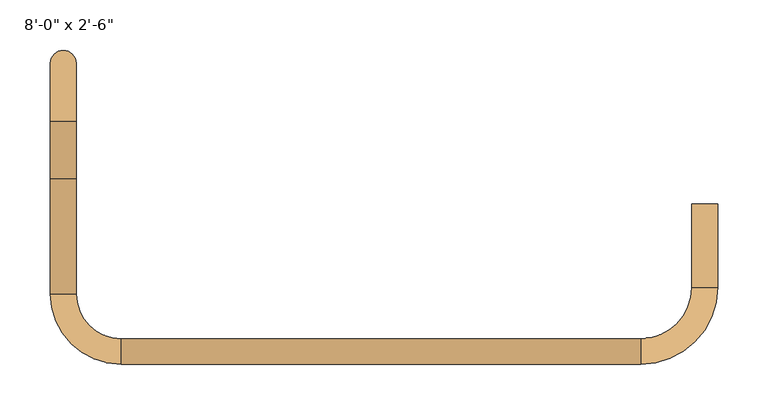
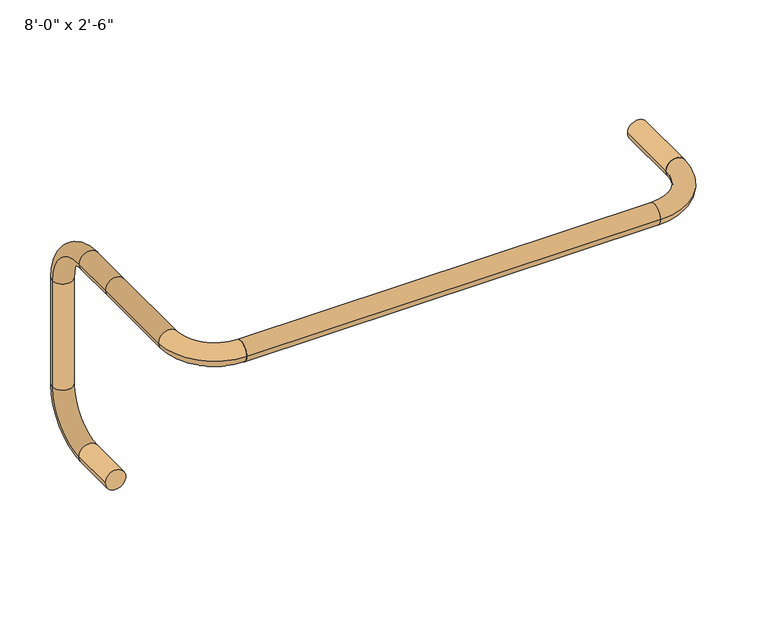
"""IFC4 building model written with IfcOpenShell, lengths in millimetres: door geometry."""

import ifcopenshell
import ifcopenshell.guid

model = None  # the IFC model being written
_history = None  # IfcOwnerHistory: only IFC2X3 demands one
_inside = {}  # id of a spatial element -> (the spatial element, [elements in it])
_under = {}  # id of a project, library or spatial element -> (it, [spatial elements below it])
_declared = {}  # id of a project -> (the project, [libraries it declares])
_typed = {}  # id of a type object -> (the type object, [elements of that type])
_made_of = {}  # id of a material, layer set ... -> (it, [elements and type objects made of it])


def new_model(schema):
    """Start an empty IFC model of exactly this schema.

    Asked for "IFC4X3", IfcOpenShell would pick the latest addendum, in which some entities
    have other attributes; the version numbers below select the first issue.
    IFC2X3 requires an IfcOwnerHistory on every rooted entity: one is made here for all.
    """
    global model, _history
    if schema == "IFC4X3":
        model = ifcopenshell.file(schema_version=(4, 3, 0, 0))
    else:
        model = ifcopenshell.file(schema=schema)
    _inside.clear()
    _under.clear()
    _declared.clear()
    _typed.clear()
    _made_of.clear()
    _history = None
    if model.schema == "IFC2X3":
        org = make("IfcOrganization", Name="unknown")
        user = make(
            "IfcPersonAndOrganization",
            ThePerson=make("IfcPerson", FamilyName="unknown"),
            TheOrganization=org,
        )
        app = make(
            "IfcApplication",
            ApplicationDeveloper=org,
            Version="unknown",
            ApplicationFullName="unknown",
            ApplicationIdentifier="unknown",
        )
        _history = make(
            "IfcOwnerHistory",
            OwningUser=user,
            OwningApplication=app,
            ChangeAction="ADDED",
            CreationDate=0,
        )
    return model


def make(cls, **values):
    """One entity of the class cls with the attributes given. An attribute that is None is left unset."""
    return model.create_entity(
        cls, **{name: value for name, value in values.items() if value is not None}
    )


def rooted(cls, **values):
    """An entity with a GlobalId (a new one), such as an element, a storey or a relation."""
    return make(cls, GlobalId=ifcopenshell.guid.new(), OwnerHistory=_history, **values)


def si_unit(unit_type, name, prefix=None):
    """IfcSIUnit, for example si_unit("LENGTHUNIT", "METRE", prefix="MILLI")."""
    return make("IfcSIUnit", UnitType=unit_type, Prefix=prefix, Name=name)


def assignment(units):
    """IfcUnitAssignment: the units of a project."""
    return None if units is None else make("IfcUnitAssignment", Units=units)


def point(xyz):
    """IfcCartesianPoint."""
    return None if xyz is None else make("IfcCartesianPoint", Coordinates=xyz)


def direction(xyz):
    """IfcDirection."""
    return None if xyz is None else make("IfcDirection", DirectionRatios=xyz)


def frame(location, z_axis=None, x_axis=None):
    """IfcAxis2Placement3D, a coordinate frame: its origin and axes. An axis left out is left unset."""
    return make(
        "IfcAxis2Placement3D",
        Location=point(location),
        Axis=direction(z_axis),
        RefDirection=direction(x_axis),
    )


def frame_2d(location, x_axis=None):
    """IfcAxis2Placement2D, a coordinate frame in the plane: its origin and x axis."""
    return make(
        "IfcAxis2Placement2D", Location=point(location), RefDirection=direction(x_axis)
    )


def origin():
    """The frame at (0, 0, 0) with its axes left unset."""
    return frame((0.0, 0.0, 0.0))


def place(relative_to, where):
    """IfcLocalPlacement: puts the frame where relative to a parent placement (None: the world)."""
    return make(
        "IfcLocalPlacement", PlacementRelTo=relative_to, RelativePlacement=where
    )


def context(
    kind, dimensions, precision=None, world=None, true_north=None, identifier=None
):
    """IfcGeometricRepresentationContext, for example the 3D "Model" context."""
    return make(
        "IfcGeometricRepresentationContext",
        ContextIdentifier=identifier,
        ContextType=kind,
        CoordinateSpaceDimension=dimensions,
        Precision=precision,
        WorldCoordinateSystem=world,
        TrueNorth=true_north,
    )


def project(units=None, contexts=None):
    """IfcProject with its units and contexts."""
    return rooted(
        "IfcProject",
        Name="project",
        RepresentationContexts=contexts,
        UnitsInContext=assignment(units),
    )


def spatial(cls, under=None, at=None, **own):
    """A site, building, storey or space (cls), placed at a placement, below another one or the project."""
    s = rooted(cls, ObjectPlacement=at, **own)
    if under is not None:
        _under.setdefault(under.id(), (under, []))[1].append(s)
    return s


def circle_curve(where, radius):
    """IfcCircle in the frame where."""
    return make("IfcCircle", Position=where, Radius=radius)


def ellipse_curve(where, semi_axis1, semi_axis2):
    """IfcEllipse in the frame where."""
    return make(
        "IfcEllipse", Position=where, SemiAxis1=semi_axis1, SemiAxis2=semi_axis2
    )


def trimmed(basis, trim1, trim2, sense, master):
    """IfcTrimmedCurve: the piece of a basis curve between two trims."""
    return make(
        "IfcTrimmedCurve",
        BasisCurve=basis,
        Trim1=trim1,
        Trim2=trim2,
        SenseAgreement=sense,
        MasterRepresentation=master,
    )


def segment(curve, same_sense, transition):
    """IfcCompositeCurveSegment."""
    return make(
        "IfcCompositeCurveSegment",
        Transition=transition,
        SameSense=same_sense,
        ParentCurve=curve,
    )


def composite_curve(segments, self_intersect=None):
    """IfcCompositeCurve: segments joined end to end."""
    return make("IfcCompositeCurve", Segments=segments, SelfIntersect=self_intersect)


def outline(outer, holes=None, kind="AREA"):
    """IfcArbitraryClosedProfileDef: a profile drawn as a closed curve; with holes, ...WithVoids."""
    if holes is None:
        return make("IfcArbitraryClosedProfileDef", ProfileType=kind, OuterCurve=outer)
    return make(
        "IfcArbitraryProfileDefWithVoids",
        ProfileType=kind,
        OuterCurve=outer,
        InnerCurves=holes,
    )


def extrude(swept, where, along, depth):
    """IfcExtrudedAreaSolid: the profile swept, set in the frame where, extruded along a direction by depth."""
    return make(
        "IfcExtrudedAreaSolid",
        SweptArea=swept,
        Position=where,
        ExtrudedDirection=direction(along),
        Depth=depth,
    )


def shape(context_of_items, identifier, shape_type, items):
    """IfcShapeRepresentation: the items that make up one representation, for example the "Body"."""
    return make(
        "IfcShapeRepresentation",
        ContextOfItems=context_of_items,
        RepresentationIdentifier=identifier,
        RepresentationType=shape_type,
        Items=items,
    )


def source(mapping_origin, context_of_items, identifier, shape_type, items):
    """IfcRepresentationMap: a shape defined once, which mapped items show again and again."""
    return make(
        "IfcRepresentationMap",
        MappingOrigin=mapping_origin,
        MappedRepresentation=shape(context_of_items, identifier, shape_type, items),
    )


def transform(
    local_origin,
    x_axis=None,
    y_axis=None,
    z_axis=None,
    scale=None,
    scale2=None,
    scale3=None,
    uniform=True,
):
    """IfcCartesianTransformationOperator3D, or its non-uniform kind. x_axis, y_axis, z_axis: its Axis1, 2, 3."""
    if uniform:
        return make(
            "IfcCartesianTransformationOperator3D",
            Axis1=direction(x_axis),
            Axis2=direction(y_axis),
            LocalOrigin=point(local_origin),
            Scale=scale,
            Axis3=direction(z_axis),
        )
    return make(
        "IfcCartesianTransformationOperator3DnonUniform",
        Axis1=direction(x_axis),
        Axis2=direction(y_axis),
        LocalOrigin=point(local_origin),
        Scale=scale,
        Axis3=direction(z_axis),
        Scale2=scale2,
        Scale3=scale3,
    )


def mapped(mapping_source, mapping_target):
    """IfcMappedItem: shows the shape of a source again, moved by a transform."""
    return make(
        "IfcMappedItem", MappingSource=mapping_source, MappingTarget=mapping_target
    )


def made_of(thing, what):
    """Note that an element or type object is made of a material, layer set ...; save() writes the relation."""
    if what is not None:
        _made_of.setdefault(what.id(), (what, []))[1].append(thing)
    return thing


def element(
    cls,
    number,
    at=None,
    inside=None,
    cuts=None,
    type_object=None,
    material=None,
    context=None,
    identifier="Body",
    shape_type=None,
    held_by="IfcProductDefinitionShape",
    body=None,
    shapes=None,
    **own,
):
    """One element of the class cls, such as IfcWall. Its Tag is "e" and its number.

    at: its placement. inside: the storey or other place that contains it. cuts: it is an
    opening in that element (IfcRelVoidsElement). A single representation is given by context,
    identifier, shape_type and body (its items); several are given by shapes. held_by: the class
    of the entity that holds the representations. save() writes the other relations.
    """
    e = rooted(cls, Tag="e%d" % number, ObjectPlacement=at, **own)
    if body is not None:
        shapes = [shape(context, identifier, shape_type, body)]
    if shapes is not None:
        e.Representation = make(held_by, Representations=shapes)
    if inside is not None:
        _inside.setdefault(inside.id(), (inside, []))[1].append(e)
    if cuts is not None:
        rooted(
            "IfcRelVoidsElement", RelatingBuildingElement=cuts, RelatedOpeningElement=e
        )
    if type_object is not None:
        _typed.setdefault(type_object.id(), (type_object, []))[1].append(e)
    return made_of(e, material)


def aggregate(whole, parts):
    """IfcRelAggregates: a whole, such as a stair, and the parts it consists of."""
    return rooted("IfcRelAggregates", RelatingObject=whole, RelatedObjects=parts)


def save(model, path):
    """Write the relations noted so far, then the file.

    IfcRelAggregates (storeys below a building ...), IfcRelContainedInSpatialStructure (elements
    in a storey), IfcRelDefinesByType, IfcRelAssociatesMaterial and IfcRelDeclares: one each for
    every whole, place, type object, material and project.
    """
    for whole, parts in _under.values():
        aggregate(whole, parts)
    for where, things in _inside.values():
        rooted(
            "IfcRelContainedInSpatialStructure",
            RelatedElements=things,
            RelatingStructure=where,
        )
    for kind, things in _typed.values():
        rooted("IfcRelDefinesByType", RelatedObjects=things, RelatingType=kind)
    for what, things in _made_of.values():
        rooted("IfcRelAssociatesMaterial", RelatedObjects=things, RelatingMaterial=what)
    for by, libraries in _declared.values():
        rooted("IfcRelDeclares", RelatingContext=by, RelatedDefinitions=libraries)
    model.write(path)


def plane_surface(at):
    """IfcPlane: the flat surface through the origin of the frame at, square to its z axis."""
    return make("IfcPlane", Position=at)


def cylinder_surface(at, radius):
    """IfcCylindricalSurface: all points at the distance radius from the z axis of the frame at."""
    return make("IfcCylindricalSurface", Position=at, Radius=radius)


def revolved_surface(curve, axis_point, axis_direction):
    """IfcSurfaceOfRevolution: the curve turned about the line through axis_point along axis_direction."""
    return make(
        "IfcSurfaceOfRevolution",
        SweptCurve=make("IfcArbitraryOpenProfileDef", ProfileType="CURVE", Curve=curve),
        AxisPosition=make("IfcAxis1Placement", Location=point(axis_point), Axis=direction(axis_direction)),
    )


def advanced_brep(points, edges, surfaces, faces):
    """IfcAdvancedBrep: a solid bounded by faces that lie on surfaces and meet in shared edges.

    An edge is (start, end): straight between two places in points (the first is 0);
    or (start, end, curve); or (start, end, curve, False) where it runs against its curve.
    A face is (place in surfaces, loops), or (place, loops, False) where it looks against
    its surface's normal. A loop lists edges by number (the first is 1), with a minus sign
    where the edge is run from its end to its start. The first loop is the outer one.
    """
    corners = [point(p) for p in points]
    vertices = [make("IfcVertexPoint", VertexGeometry=c) for c in corners]
    made = []
    for start, end, *more in edges:
        made.append(
            make(
                "IfcEdgeCurve",
                EdgeStart=vertices[start],
                EdgeEnd=vertices[end],
                EdgeGeometry=more[0] if more else make("IfcPolyline", Points=[corners[start], corners[end]]),
                SameSense=more[1] if len(more) > 1 else True,
            )
        )
    hull = []
    for where, loops, *sense in faces:
        bounds = []
        for j, loop in enumerate(loops):
            ring = [make("IfcOrientedEdge", EdgeElement=made[abs(k) - 1], Orientation=k > 0) for k in loop]
            bounds.append(
                make(
                    "IfcFaceOuterBound" if j == 0 else "IfcFaceBound",
                    Bound=make("IfcEdgeLoop", EdgeList=ring),
                    Orientation=True,
                )
            )
        hull.append(make("IfcAdvancedFace", Bounds=bounds, FaceSurface=surfaces[where], SameSense=sense[0] if sense else True))
    return make("IfcAdvancedBrep", Outer=make("IfcClosedShell", CfsFaces=hull))


def door_1882726e(model_context):
    return source(origin(), model_context, "Body", "SolidModel", [
        extrude(outline(composite_curve([segment(trimmed(circle_curve(frame_2d((1016.0, 317.5)), 12.7), [point((1016.0, 330.2))], [point((1016.0, 304.8))], False, "CARTESIAN"), True, "CONTINUOUS"), segment(trimmed(circle_curve(frame_2d((1016.0, 317.5)), 12.7), [point((1016.0, 304.8))], [point((1016.0, 330.2))], False, "CARTESIAN"), True, "CONTINUOUS")], self_intersect=False)), frame((0.0, -57.15, 0.0), z_axis=(0.0, 1.0, 0.0), x_axis=(0.0, 0.0, 1.0)), (0.0, 0.0, 1.0), 82.55),
        extrude(outline(composite_curve([segment(trimmed(circle_curve(frame_2d((-120.65, 1016.0)), 12.7), [point((-133.35, 1016.0))], [point((-107.95, 1016.0))], False, "CARTESIAN"), True, "CONTINUOUS"), segment(trimmed(circle_curve(frame_2d((-120.65, 1016.0)), 12.7), [point((-107.95, 1016.0))], [point((-133.35, 1016.0))], False, "CARTESIAN"), True, "CONTINUOUS")], self_intersect=False)), frame((-260.35, 0.0, 0.0), z_axis=(1.0, 0.0, 0.0), x_axis=(0.0, 1.0, 0.0)), (0.0, 0.0, 1.0), 514.35),
        advanced_brep(
        [(254.0, -107.95, 1016.0), (254.0, -133.35, 1016.0), (304.8, -57.15, 1016.0), (330.2, -57.15, 1016.0)],
        [
            (0, 1, circle_curve(frame((254.0, -120.65, 1016.0), z_axis=(-1.0, 0.0, 0.0), x_axis=(0.0, -1.0, 0.0)), 12.7)),
            (1, 0, circle_curve(frame((254.0, -120.65, 1016.0), z_axis=(-1.0, 0.0, 0.0), x_axis=(0.0, -1.0, 0.0)), 12.7)),
            (2, 3, circle_curve(frame((317.5, -57.15, 1016.0), z_axis=(0.0, 1.0, 0.0), x_axis=(1.0, 0.0, 0.0)), 12.7)),
            (3, 2, circle_curve(frame((317.5, -57.15, 1016.0), z_axis=(0.0, 1.0, 0.0), x_axis=(1.0, 0.0, 0.0)), 12.7)),
            (2, 0, circle_curve(frame((254.0, -57.15, 1016.0), z_axis=(0.0, 0.0, -1.0), x_axis=(0.0, -1.0, 0.0)), 50.8)),
            (1, 3, circle_curve(frame((254.0, -57.15, 1016.0), z_axis=(0.0, 0.0, 1.0), x_axis=(0.0, -1.0, 0.0)), 76.2)),
        ],
        [
            plane_surface(frame((254.0, -120.65, 1016.0), z_axis=(-1.0, 0.0, 0.0), x_axis=(0.0, 0.0, 1.0))),
            plane_surface(frame((317.5, -57.15, 1016.0), z_axis=(0.0, 1.0, 0.0), x_axis=(0.0, 0.0, 1.0))),
            revolved_surface(trimmed(ellipse_curve(frame((254.0, -120.65, 1016.0), z_axis=(1.0, 0.0, 0.0), x_axis=(0.0, -1.0, 0.0)), 12.7, 12.7), [point((254.0, -107.95, 1016.0))], [point((254.0, -133.35, 1016.0))], True, "CARTESIAN"), (254.0, -57.15, 1016.0), (0.0, 0.0, -1.0)),
            revolved_surface(trimmed(ellipse_curve(frame((254.0, -120.65, 1016.0), z_axis=(1.0, 0.0, 0.0), x_axis=(0.0, -1.0, 0.0)), 12.7, 12.7), [point((254.0, -133.35, 1016.0))], [point((254.0, -107.95, 1016.0))], True, "CARTESIAN"), (254.0, -57.15, 1016.0), (0.0, 0.0, -1.0)),
        ],
        [
            (0, [[1, 2]]),
            (1, [[3, 4]]),
            (2, [[-3, 5, -2, 6]]),
            (3, [[-4, -6, -1, -5]]),
        ],
    ),
        advanced_brep(
        [(-304.8, 50.8, 762.0), (-330.2, 50.8, 762.0), (-330.2, 107.95, 762.0), (-304.8, 107.95, 762.0), (-330.2, 165.1, 819.15), (-304.8, 165.1, 819.15), (-330.2, 165.1, 958.85), (-304.8, 165.1, 958.85), (-330.2, 107.95, 1016.0), (-304.8, 107.95, 1016.0), (-330.2, 50.8, 1016.0), (-304.8, 50.8, 1016.0), (-330.2, -63.5, 1016.0), (-304.8, -63.5, 1016.0), (-260.35, -107.95, 1016.0), (-260.35, -133.35, 1016.0)],
        [
            (0, 1, circle_curve(frame((-317.5, 50.8, 762.0), z_axis=(0.0, -1.0, 0.0), x_axis=(-1.0, 0.0, 0.0)), 12.7)),
            (1, 0, circle_curve(frame((-317.5, 50.8, 762.0), z_axis=(0.0, -1.0, 0.0), x_axis=(-1.0, 0.0, 0.0)), 12.7)),
            (1, 2),
            (2, 3, circle_curve(frame((-317.5, 107.95, 762.0), z_axis=(0.0, -1.0, 0.0), x_axis=(-1.0, 0.0, 0.0)), 12.7)),
            (3, 0),
            (3, 2, circle_curve(frame((-317.5, 107.95, 762.0), z_axis=(0.0, -1.0, 0.0), x_axis=(-1.0, 0.0, 0.0)), 12.7)),
            (4, 5, circle_curve(frame((-317.5, 165.1, 819.15), z_axis=(0.0, 0.0, -1.0), x_axis=(-1.0, 0.0, 0.0)), 12.7)),
            (5, 3, circle_curve(frame((-304.8, 107.95, 819.15), z_axis=(-1.0, 0.0, 0.0), x_axis=(0.0, 0.0, -1.0)), 57.15)),
            (2, 4, circle_curve(frame((-330.2, 107.95, 819.15), z_axis=(1.0, 0.0, 0.0), x_axis=(0.0, 0.0, -1.0)), 57.15)),
            (5, 4, circle_curve(frame((-317.5, 165.1, 819.15), z_axis=(0.0, 0.0, -1.0), x_axis=(-1.0, 0.0, 0.0)), 12.7)),
            (4, 6),
            (6, 7, circle_curve(frame((-317.5, 165.1, 958.85), z_axis=(0.0, 0.0, -1.0), x_axis=(-1.0, 0.0, 0.0)), 12.7)),
            (7, 5),
            (7, 6, circle_curve(frame((-317.5, 165.1, 958.85), z_axis=(0.0, 0.0, -1.0), x_axis=(-1.0, 0.0, 0.0)), 12.7)),
            (8, 9, circle_curve(frame((-317.5, 107.95, 1016.0), z_axis=(0.0, 1.0, 0.0), x_axis=(-1.0, 0.0, 0.0)), 12.7)),
            (9, 7, circle_curve(frame((-304.8, 107.95, 958.85), z_axis=(-1.0, 0.0, 0.0), x_axis=(0.0, 1.0, 0.0)), 57.15)),
            (6, 8, circle_curve(frame((-330.2, 107.95, 958.85), z_axis=(1.0, 0.0, 0.0), x_axis=(0.0, 1.0, 0.0)), 57.15)),
            (9, 8, circle_curve(frame((-317.5, 107.95, 1016.0), z_axis=(0.0, 1.0, 0.0), x_axis=(-1.0, 0.0, 0.0)), 12.7)),
            (8, 10),
            (10, 11, circle_curve(frame((-317.5, 50.8, 1016.0), z_axis=(0.0, 1.0, 0.0), x_axis=(-1.0, 0.0, 0.0)), 12.7)),
            (11, 9),
            (11, 10, circle_curve(frame((-317.5, 50.8, 1016.0), z_axis=(0.0, 1.0, 0.0), x_axis=(-1.0, 0.0, 0.0)), 12.7)),
            (10, 12),
            (12, 13, circle_curve(frame((-317.5, -63.5, 1016.0), z_axis=(0.0, 1.0, 0.0), x_axis=(-1.0, 0.0, 0.0)), 12.7)),
            (13, 11),
            (13, 12, circle_curve(frame((-317.5, -63.5, 1016.0), z_axis=(0.0, 1.0, 0.0), x_axis=(-1.0, 0.0, 0.0)), 12.7)),
            (14, 15, circle_curve(frame((-260.35, -120.65, 1016.0), z_axis=(1.0, 0.0, 0.0), x_axis=(0.0, -1.0, 0.0)), 12.7)),
            (15, 14, circle_curve(frame((-260.35, -120.65, 1016.0), z_axis=(1.0, 0.0, 0.0), x_axis=(0.0, -1.0, 0.0)), 12.7)),
            (14, 13, circle_curve(frame((-260.35, -63.5, 1016.0), z_axis=(0.0, 0.0, -1.0), x_axis=(-1.0, 0.0, 0.0)), 44.45)),
            (12, 15, circle_curve(frame((-260.35, -63.5, 1016.0), z_axis=(0.0, 0.0, 1.0), x_axis=(-1.0, 0.0, 0.0)), 69.85)),
        ],
        [
            plane_surface(frame((-304.8, 50.8, 762.0), z_axis=(0.0, -1.0, 0.0), x_axis=(0.0, 0.0, 1.0))),
            cylinder_surface(frame((-317.5, 50.8, 762.0), z_axis=(0.0, -1.0, 0.0), x_axis=(-1.0, 0.0, 0.0)), 12.7),
            revolved_surface(trimmed(ellipse_curve(frame((-317.5, 107.95, 762.0), z_axis=(0.0, 1.0, 0.0), x_axis=(-1.0, 0.0, 0.0)), 12.7, 12.7), [point((-304.8, 107.95, 762.0))], [point((-330.2, 107.95, 762.0))], True, "CARTESIAN"), (-317.5, 107.95, 819.15), (-1.0, 0.0, 0.0)),
            revolved_surface(trimmed(ellipse_curve(frame((-317.5, 107.95, 762.0), z_axis=(0.0, 1.0, 0.0), x_axis=(-1.0, 0.0, 0.0)), 12.7, 12.7), [point((-330.2, 107.95, 762.0))], [point((-304.8, 107.95, 762.0))], True, "CARTESIAN"), (-317.5, 107.95, 819.15), (-1.0, 0.0, 0.0)),
            cylinder_surface(frame((-317.5, 165.1, 819.15), z_axis=(0.0, 0.0, -1.0), x_axis=(-1.0, 0.0, 0.0)), 12.7),
            revolved_surface(trimmed(ellipse_curve(frame((-317.5, 165.1, 958.85), z_axis=(0.0, 0.0, 1.0), x_axis=(-1.0, 0.0, 0.0)), 12.7, 12.7), [point((-304.8, 165.1, 958.85))], [point((-330.2, 165.1, 958.85))], True, "CARTESIAN"), (-317.5, 107.95, 958.85), (-1.0, 0.0, 0.0)),
            revolved_surface(trimmed(ellipse_curve(frame((-317.5, 165.1, 958.85), z_axis=(0.0, 0.0, 1.0), x_axis=(-1.0, 0.0, 0.0)), 12.7, 12.7), [point((-330.2, 165.1, 958.85))], [point((-304.8, 165.1, 958.85))], True, "CARTESIAN"), (-317.5, 107.95, 958.85), (-1.0, 0.0, 0.0)),
            cylinder_surface(frame((-317.5, 107.95, 1016.0), z_axis=(0.0, 1.0, 0.0), x_axis=(-1.0, 0.0, 0.0)), 12.7),
            cylinder_surface(frame((-317.5, 50.8, 1016.0), z_axis=(0.0, 1.0, 0.0), x_axis=(-1.0, 0.0, 0.0)), 12.7),
            plane_surface(frame((-260.35, -63.5, 1016.0), z_axis=(1.0, 0.0, 0.0), x_axis=(0.0, -1.0, 0.0))),
            revolved_surface(trimmed(ellipse_curve(frame((-317.5, -63.5, 1016.0), z_axis=(0.0, -1.0, 0.0), x_axis=(-1.0, 0.0, 0.0)), 12.7, 12.7), [point((-304.8, -63.5, 1016.0))], [point((-330.2, -63.5, 1016.0))], True, "CARTESIAN"), (-260.35, -63.5, 1016.0), (0.0, 0.0, -1.0)),
            revolved_surface(trimmed(ellipse_curve(frame((-317.5, -63.5, 1016.0), z_axis=(0.0, -1.0, 0.0), x_axis=(-1.0, 0.0, 0.0)), 12.7, 12.7), [point((-330.2, -63.5, 1016.0))], [point((-304.8, -63.5, 1016.0))], True, "CARTESIAN"), (-260.35, -63.5, 1016.0), (0.0, 0.0, -1.0)),
        ],
        [
            (0, [[1, 2]]),
            (1, [[3, 4, 5, -2]]),
            (1, [[-5, 6, -3, -1]]),
            (2, [[7, 8, -4, 9]]),
            (3, [[10, -9, -6, -8]]),
            (4, [[11, 12, 13, -7]]),
            (4, [[-13, 14, -11, -10]]),
            (5, [[15, 16, -12, 17]]),
            (6, [[18, -17, -14, -16]]),
            (7, [[19, 20, 21, -15]]),
            (7, [[-21, 22, -19, -18]]),
            (8, [[23, 24, 25, -20]]),
            (8, [[-25, 26, -23, -22]]),
            (9, [[27, 28]]),
            (10, [[-27, 29, -24, 30]]),
            (11, [[-28, -30, -26, -29]]),
        ],
    ),
    ])


if __name__ == "__main__":
    model = new_model("IFC4")
    model_context = context("Model", 3, world=origin())
    ifc_project = project(units=[si_unit("LENGTHUNIT", "METRE", prefix="MILLI")], contexts=[model_context])
    site = spatial("IfcSite", under=ifc_project)
    building = spatial("IfcBuilding", under=site)
    placement = place(None, origin())
    door_shape = door_1882726e(model_context)
    element("IfcDoor", 1, ObjectType="Planitar - Single Door_Swapper : 8'-0\" x 2'-6\"", at=placement, inside=building, context=model_context, shape_type="MappedRepresentation", body=[
        mapped(door_shape, transform((0.0, 0.0, 0.0), x_axis=(1.0, 0.0, 0.0), y_axis=(0.0, 1.0, 0.0), z_axis=(0.0, 0.0, 1.0))),
    ])
    save(model, "model.ifc")
